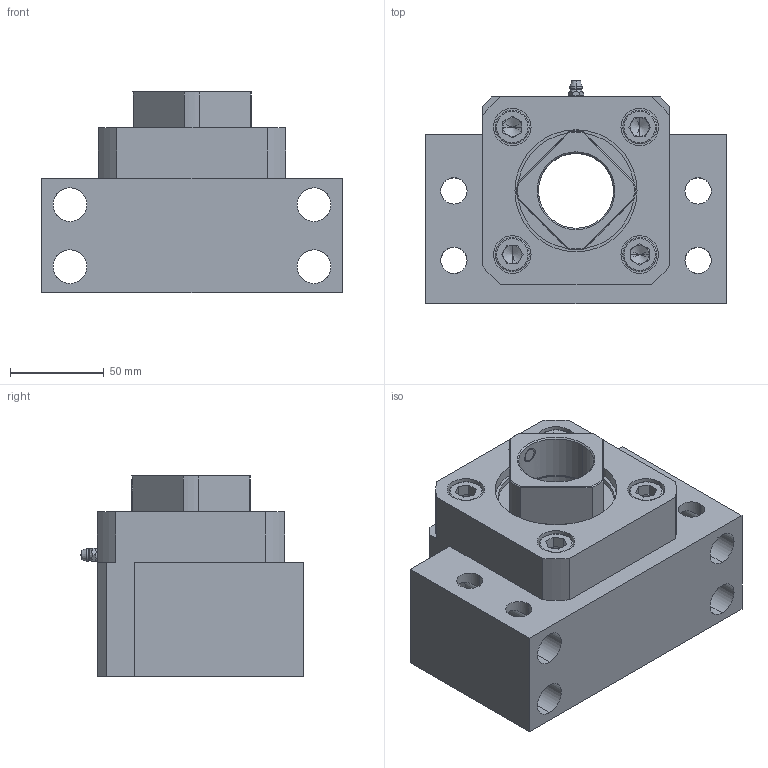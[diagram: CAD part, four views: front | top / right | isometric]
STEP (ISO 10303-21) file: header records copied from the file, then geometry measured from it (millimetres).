
FILE_DESCRIPTION (( 'STEP AP203' ), '1' );
FILE_NAME ('BK40G.STEP', '2018-09-15T03:11:55', ( '' ), ( '' ), 'SwSTEP 2.0', 'SolidWorks 2015', '' );
FILE_SCHEMA (( 'CONFIG_CONTROL_DESIGN' ));
Length unit declared in the file: millimetre
Products named in the file (1): BK40G
Bounding box: 160 x 118.9 x 107.5 mm (x, y, z)
Volume: 986152 mm3; surface area: 161977.4 mm2
Topology: 1 solids, 15 shells, 429 faces, 1038 edges, 631 vertices
Faces by surface type: cylinder 162, plane 143, cone 67, torus 48, bspline 9
Entity records: 14437 total; most frequent: CARTESIAN_POINT 4305, DIRECTION 2188, ORIENTED_EDGE 2036, EDGE_CURVE 1018, AXIS2_PLACEMENT_3D 883, VERTEX_POINT 631, EDGE_LOOP 495, CIRCLE 462
